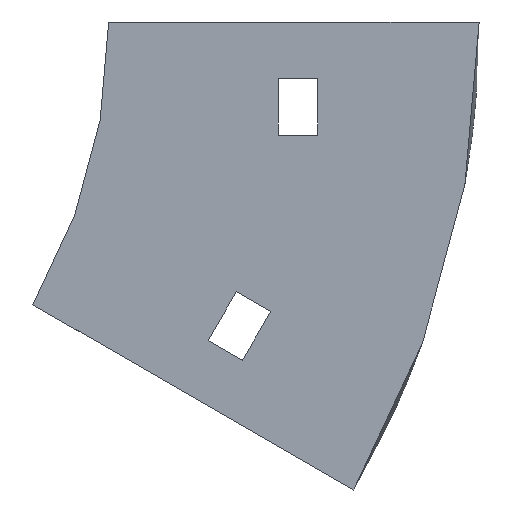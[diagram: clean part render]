
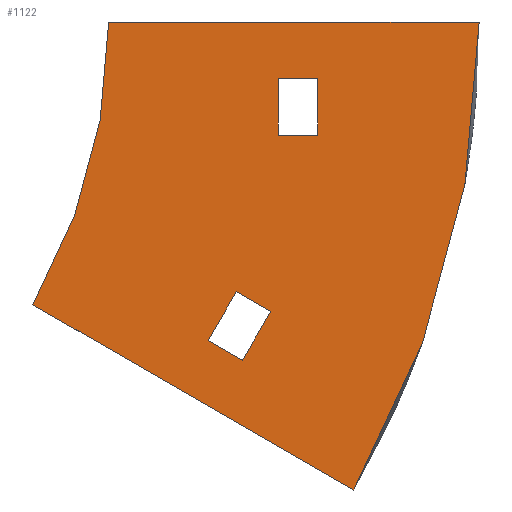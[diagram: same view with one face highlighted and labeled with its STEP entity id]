
A CAD part, left-side view. The second image highlights one B-rep face of the part: STEP entity #1122.
In plain terms, the highlighted planar face has unit normal (-1, 0, 0).
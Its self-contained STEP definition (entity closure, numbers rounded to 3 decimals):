
#4 = ORIENTED_EDGE ( 'NONE', *, *, #516, .F. ) ;
#5 = ORIENTED_EDGE ( 'NONE', *, *, #503, .T. ) ;
#12 = CARTESIAN_POINT ( 'NONE',  ( -202., -30., -10. ) ) ;
#22 = DIRECTION ( 'NONE',  ( -1., 0., 0. ) ) ;
#23 = CARTESIAN_POINT ( 'NONE',  ( -202., -23.645, -59.84 ) ) ;
#32 = DIRECTION ( 'NONE',  ( 0., -0.5, 0.866 ) ) ;
#39 = CARTESIAN_POINT ( 'NONE',  ( -202., -23.645, -59.84 ) ) ;
#40 = EDGE_CURVE ( 'NONE', #72, #1146, #1092, .T. ) ;
#62 = DIRECTION ( 'NONE',  ( 0., 0.866, 0.5 ) ) ;
#72 = VERTEX_POINT ( 'NONE', #90 ) ;
#78 = VECTOR ( 'NONE', #770, 1000. ) ;
#90 = CARTESIAN_POINT ( 'NONE',  ( -202., 0., 0. ) ) ;
#99 = ORIENTED_EDGE ( 'NONE', *, *, #126, .F. ) ;
#118 = CARTESIAN_POINT ( 'NONE',  ( -202., -30., -20. ) ) ;
#119 = FACE_OUTER_BOUND ( 'NONE', #1134, .T. ) ;
#122 = DIRECTION ( 'NONE',  ( 0., -1., 0. ) ) ;
#126 = EDGE_CURVE ( 'NONE', #701, #862, #983, .T. ) ;
#130 = LINE ( 'NONE', #12, #562 ) ;
#137 = VERTEX_POINT ( 'NONE', #892 ) ;
#148 = EDGE_CURVE ( 'NONE', #600, #72, #859, .T. ) ;
#156 = DIRECTION ( 'NONE',  ( 1., 0., 0. ) ) ;
#166 = ORIENTED_EDGE ( 'NONE', *, *, #40, .F. ) ;
#175 = VERTEX_POINT ( 'NONE', #1026 ) ;
#185 = CIRCLE ( 'NONE', #364, 165.5 ) ;
#223 = DIRECTION ( 'NONE',  ( 1., 0., 0. ) ) ;
#243 = DIRECTION ( 'NONE',  ( 0., 0., -1. ) ) ;
#244 = CARTESIAN_POINT ( 'NONE',  ( -202., -30., -10. ) ) ;
#258 = EDGE_LOOP ( 'NONE', ( #99, #697, #4, #893 ) ) ;
#266 = VECTOR ( 'NONE', #1040, 1000. ) ;
#297 = LINE ( 'NONE', #819, #266 ) ;
#300 = CARTESIAN_POINT ( 'NONE',  ( -202., -17.583, -56.34 ) ) ;
#301 = LINE ( 'NONE', #23, #738 ) ;
#323 = VERTEX_POINT ( 'NONE', #746 ) ;
#324 = VECTOR ( 'NONE', #62, 1000. ) ;
#330 = CARTESIAN_POINT ( 'NONE',  ( -202., -37., -10. ) ) ;
#334 = ORIENTED_EDGE ( 'NONE', *, *, #1001, .F. ) ;
#348 = VERTEX_POINT ( 'NONE', #856 ) ;
#355 = AXIS2_PLACEMENT_3D ( 'NONE', #825, #22, #648 ) ;
#364 = AXIS2_PLACEMENT_3D ( 'NONE', #930, #156, #517 ) ;
#393 = DIRECTION ( 'NONE',  ( 0., 1., 0. ) ) ;
#428 = EDGE_CURVE ( 'NONE', #862, #175, #301, .T. ) ;
#450 = LINE ( 'NONE', #802, #900 ) ;
#467 = EDGE_CURVE ( 'NONE', #968, #1117, #911, .T. ) ;
#472 = VECTOR ( 'NONE', #243, 1000. ) ;
#487 = VERTEX_POINT ( 'NONE', #1086 ) ;
#490 = FACE_BOUND ( 'NONE', #258, .T. ) ;
#494 = DIRECTION ( 'NONE',  ( 0., -1., 0. ) ) ;
#503 = EDGE_CURVE ( 'NONE', #1117, #487, #933, .T. ) ;
#516 = EDGE_CURVE ( 'NONE', #175, #137, #670, .T. ) ;
#517 = DIRECTION ( 'NONE',  ( 0., 0., -1. ) ) ;
#551 = EDGE_CURVE ( 'NONE', #137, #701, #297, .T. ) ;
#562 = VECTOR ( 'NONE', #494, 1000. ) ;
#565 = CARTESIAN_POINT ( 'NONE',  ( -202., -65.5, 0. ) ) ;
#592 = ORIENTED_EDGE ( 'NONE', *, *, #815, .F. ) ;
#600 = VERTEX_POINT ( 'NONE', #918 ) ;
#631 = VECTOR ( 'NONE', #122, 1000. ) ;
#648 = DIRECTION ( 'NONE',  ( 0., 0., -1. ) ) ;
#670 = LINE ( 'NONE', #958, #324 ) ;
#683 = ORIENTED_EDGE ( 'NONE', *, *, #467, .T. ) ;
#697 = ORIENTED_EDGE ( 'NONE', *, *, #551, .F. ) ;
#701 = VERTEX_POINT ( 'NONE', #1005 ) ;
#717 = FACE_BOUND ( 'NONE', #1011, .T. ) ;
#723 = AXIS2_PLACEMENT_3D ( 'NONE', #1095, #223, #1071 ) ;
#728 = DIRECTION ( 'NONE',  ( 0., -0.866, -0.5 ) ) ;
#736 = PLANE ( 'NONE',  #723 ) ;
#738 = VECTOR ( 'NONE', #32, 1000. ) ;
#746 = CARTESIAN_POINT ( 'NONE',  ( -202., -43.327, -82.75 ) ) ;
#770 = DIRECTION ( 'NONE',  ( 0., 0., 1. ) ) ;
#776 = EDGE_CURVE ( 'NONE', #348, #968, #1121, .T. ) ;
#778 = ORIENTED_EDGE ( 'NONE', *, *, #148, .F. ) ;
#785 = ORIENTED_EDGE ( 'NONE', *, *, #776, .T. ) ;
#789 = ORIENTED_EDGE ( 'NONE', *, *, #870, .T. ) ;
#802 = CARTESIAN_POINT ( 'NONE',  ( -202., 13.397, -50. ) ) ;
#815 = EDGE_CURVE ( 'NONE', #323, #600, #450, .T. ) ;
#819 = CARTESIAN_POINT ( 'NONE',  ( -202., -17.583, -56.34 ) ) ;
#825 = CARTESIAN_POINT ( 'NONE',  ( -202., 100., 0. ) ) ;
#856 = CARTESIAN_POINT ( 'NONE',  ( -202., -37., -10. ) ) ;
#859 = CIRCLE ( 'NONE', #355, 100. ) ;
#860 = VECTOR ( 'NONE', #393, 1000. ) ;
#862 = VERTEX_POINT ( 'NONE', #39 ) ;
#870 = EDGE_CURVE ( 'NONE', #487, #348, #130, .T. ) ;
#874 = VECTOR ( 'NONE', #728, 1000. ) ;
#892 = CARTESIAN_POINT ( 'NONE',  ( -202., -22.583, -47.679 ) ) ;
#893 = ORIENTED_EDGE ( 'NONE', *, *, #428, .F. ) ;
#900 = VECTOR ( 'NONE', #1100, 1000. ) ;
#911 = LINE ( 'NONE', #118, #860 ) ;
#915 = CARTESIAN_POINT ( 'NONE',  ( -202., -30., -20. ) ) ;
#918 = CARTESIAN_POINT ( 'NONE',  ( -202., 13.397, -50. ) ) ;
#930 = CARTESIAN_POINT ( 'NONE',  ( -202., 100., 0. ) ) ;
#933 = LINE ( 'NONE', #244, #78 ) ;
#958 = CARTESIAN_POINT ( 'NONE',  ( -202., -22.583, -47.679 ) ) ;
#968 = VERTEX_POINT ( 'NONE', #1130 ) ;
#983 = LINE ( 'NONE', #300, #874 ) ;
#1001 = EDGE_CURVE ( 'NONE', #1146, #323, #185, .T. ) ;
#1005 = CARTESIAN_POINT ( 'NONE',  ( -202., -17.583, -56.34 ) ) ;
#1011 = EDGE_LOOP ( 'NONE', ( #5, #789, #785, #683 ) ) ;
#1026 = CARTESIAN_POINT ( 'NONE',  ( -202., -28.645, -51.179 ) ) ;
#1040 = DIRECTION ( 'NONE',  ( 0., 0.5, -0.866 ) ) ;
#1071 = DIRECTION ( 'NONE',  ( 0., 0., -1. ) ) ;
#1086 = CARTESIAN_POINT ( 'NONE',  ( -202., -30., -10. ) ) ;
#1092 = LINE ( 'NONE', #565, #631 ) ;
#1095 = CARTESIAN_POINT ( 'NONE',  ( -202., 100., 0. ) ) ;
#1100 = DIRECTION ( 'NONE',  ( 0., 0.866, 0.5 ) ) ;
#1117 = VERTEX_POINT ( 'NONE', #915 ) ;
#1121 = LINE ( 'NONE', #330, #472 ) ;
#1122 = ADVANCED_FACE ( 'NONE', ( #119, #717, #490 ), #736, .F. ) ;
#1127 = CARTESIAN_POINT ( 'NONE',  ( -202., -65.5, 0. ) ) ;
#1130 = CARTESIAN_POINT ( 'NONE',  ( -202., -37., -20. ) ) ;
#1134 = EDGE_LOOP ( 'NONE', ( #778, #592, #334, #166 ) ) ;
#1146 = VERTEX_POINT ( 'NONE', #1127 ) ;
